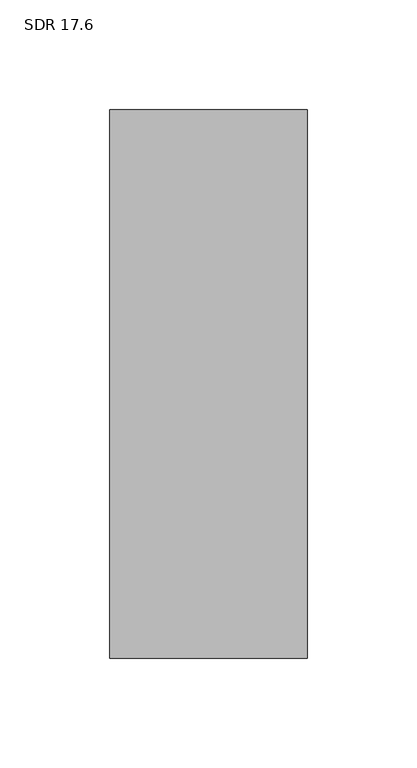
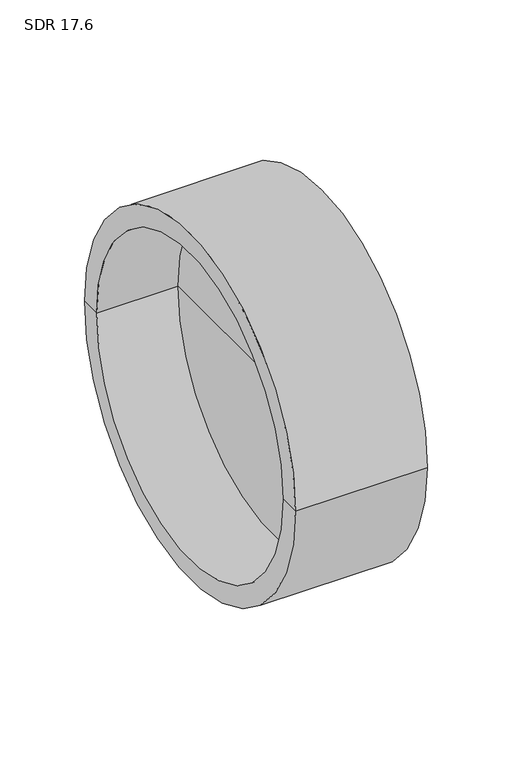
"""IFC4 building model written with IfcOpenShell, lengths in millimetres: pipe fitting geometry, Aquatherm - End Cap Butt-Weld : SDR 17.6."""

from ifc_helpers import new_model, si_unit, frame, origin, place, context, project, spatial, polyline, circle_curve, source, transform, mapped, element, save
from ifc_brep_helpers import plane_surface, cylinder_surface, revolved_surface, advanced_brep


def sdr_17_6_5796a595(model_context):
    return source(origin(), model_context, "Body", "AdvancedBrep", [
        advanced_brep(
        [(89.916, -124.968, 0.0), (89.916, 124.968, 0.0), (89.916, 0.0, 0.0), (55.626, 0.0, 0.0), (55.626, 110.744, 0.0), (55.626, -110.744, 0.0), (0.0, 110.744, 0.0), (0.0, -110.744, 0.0), (0.0, 124.968, 0.0), (0.0, -124.968, 0.0)],
        [
            (0, 1, circle_curve(frame((89.916, 0.0, 0.0), z_axis=(1.0, 0.0, 0.0), x_axis=(0.0, 1.0, 0.0)), 124.968)),
            (1, 2),
            (2, 0),
            (1, 0, circle_curve(frame((89.916, 0.0, 0.0), z_axis=(1.0, 0.0, 0.0), x_axis=(0.0, 1.0, 0.0)), 124.968)),
            (3, 4),
            (4, 5, circle_curve(frame((55.626, 0.0, 0.0), z_axis=(-1.0, 0.0, 0.0), x_axis=(0.0, 1.0, 0.0)), 110.744)),
            (5, 3),
            (5, 4, circle_curve(frame((55.626, 0.0, 0.0), z_axis=(-1.0, 0.0, 0.0), x_axis=(0.0, 1.0, 0.0)), 110.744)),
            (4, 6),
            (6, 7, circle_curve(frame((0.0, 0.0, 0.0), z_axis=(-1.0, 0.0, 0.0), x_axis=(0.0, 1.0, 0.0)), 110.744)),
            (7, 5),
            (7, 6, circle_curve(frame((0.0, 0.0, 0.0), z_axis=(-1.0, 0.0, 0.0), x_axis=(0.0, 1.0, 0.0)), 110.744)),
            (6, 8),
            (8, 9, circle_curve(frame((0.0, 0.0, 0.0), z_axis=(-1.0, 0.0, 0.0), x_axis=(0.0, 1.0, 0.0)), 124.968)),
            (9, 7),
            (9, 8, circle_curve(frame((0.0, 0.0, 0.0), z_axis=(-1.0, 0.0, 0.0), x_axis=(0.0, 1.0, 0.0)), 124.968)),
            (8, 1),
            (0, 9),
        ],
        [
            plane_surface(frame((89.916, 0.0, 0.0), z_axis=(1.0, 0.0, 0.0), x_axis=(0.0, 1.0, 0.0))),
            plane_surface(frame((55.626, 0.0, 0.0), z_axis=(-1.0, 0.0, 0.0), x_axis=(0.0, 1.0, 0.0))),
            revolved_surface(polyline([(0.0, 110.744, 0.0), (55.625999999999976, 110.744, 0.0)]), (-1354.074, 0.0, 0.0), (-1.0, 0.0, 0.0)),
            plane_surface(frame((0.0, 0.0, 0.0), z_axis=(-1.0, 0.0, 0.0), x_axis=(0.0, 1.0, 0.0))),
            cylinder_surface(frame((-1354.074, 0.0, 0.0), z_axis=(-1.0, 0.0, 0.0), x_axis=(0.0, 1.0, 0.0)), 124.968),
        ],
        [
            (0, [[1, 2, 3]]),
            (0, [[4, -3, -2]]),
            (1, [[5, 6, 7]]),
            (1, [[-7, 8, -5]]),
            (2, [[-6, 9, 10, 11]]),
            (2, [[-8, -11, 12, -9]]),
            (3, [[-10, 13, 14, 15]]),
            (3, [[-12, -15, 16, -13]]),
            (4, [[-14, 17, -1, 18]]),
            (4, [[-16, -18, -4, -17]]),
        ],
    ),
    ])


if __name__ == "__main__":
    model = new_model("IFC4")
    model_context = context("Model", 3, world=origin())
    ifc_project = project(units=[si_unit("LENGTHUNIT", "METRE", prefix="MILLI")], contexts=[model_context])
    site = spatial("IfcSite", under=ifc_project)
    building = spatial("IfcBuilding", under=site)
    placement = place(None, origin())
    sdr_17_6_shape = sdr_17_6_5796a595(model_context)
    element("IfcPipeFitting", 1, ObjectType="Aquatherm - End Cap Butt-Weld : SDR 17.6", at=placement, inside=building, context=model_context, shape_type="MappedRepresentation", body=[
        mapped(sdr_17_6_shape, transform((0.0, 0.0, 0.0), x_axis=(1.0, 0.0, 0.0), y_axis=(0.0, 1.0, 0.0), z_axis=(0.0, 0.0, 1.0))),
    ])
    save(model, "model.ifc")
